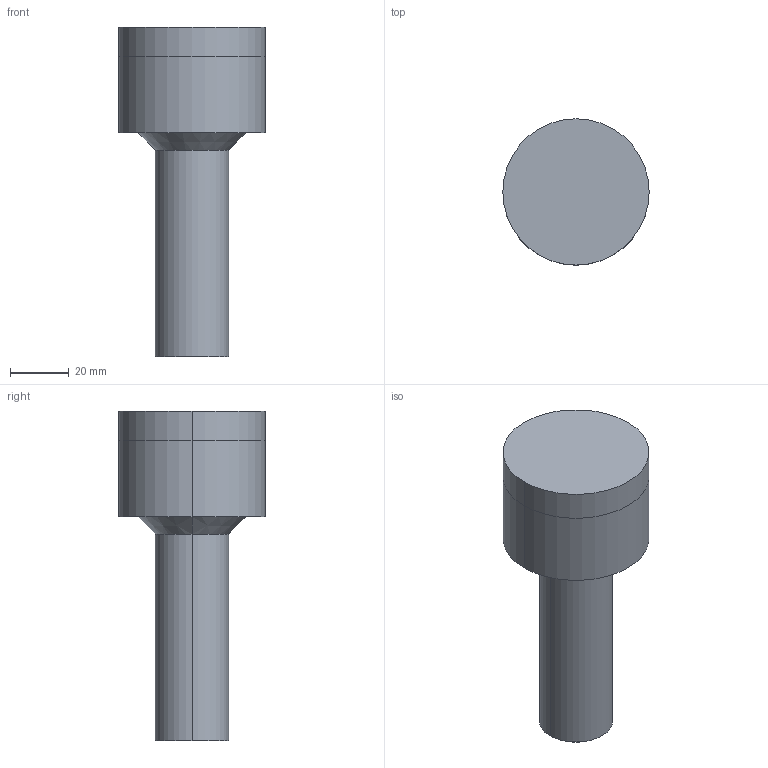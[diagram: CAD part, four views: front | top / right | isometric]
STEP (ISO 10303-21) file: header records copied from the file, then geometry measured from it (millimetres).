
FILE_DESCRIPTION (( 'STEP AP214' ), '1' );
FILE_NAME ('BruyRubio_B4_102,5.STEP', '2020-01-14T10:18:49', ( '' ), ( '' ), 'SwSTEP 2.0', 'SolidWorks 2017', '' );
FILE_SCHEMA (( 'AUTOMOTIVE_DESIGN' ));
Length unit declared in the file: millimetre
Products named in the file (3): BruyRubio_B4_102,5; Einbauraum_27c539; B4 102,5_d11622
Assembly tree (2 placements, depth 2):
  BruyRubio_B4_102,5
    Einbauraum_27c539
    B4 102,5_d11622
Bounding box: 50 x 50 x 112.5 mm (x, y, z)
Volume: 194865.4 mm3; surface area: 31285.2 mm2
Topology: 2 solids, 2 shells, 23 faces, 44 edges, 26 vertices
Faces by surface type: cylinder 8, cone 6, plane 5, torus 2, sphere 2
Entity records: 955 total; most frequent: DIRECTION 130, CARTESIAN_POINT 98, ORIENTED_EDGE 88, AXIS2_PLACEMENT_3D 58, EDGE_CURVE 44, UNCERTAINTY_MEASURE_WITH_UNIT 30, CIRCLE 30, SURFACE_STYLE_USAGE 27
